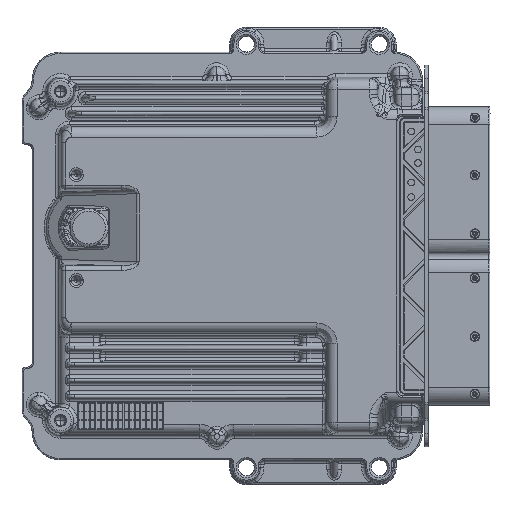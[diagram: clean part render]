
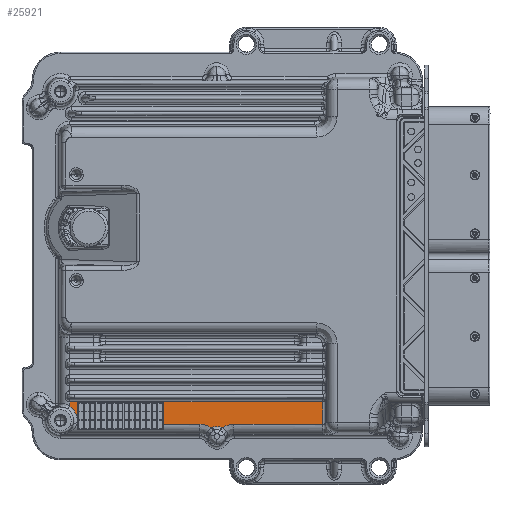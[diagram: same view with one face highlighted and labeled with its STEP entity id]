
A CAD part, top view. The second image highlights one B-rep face of the part: STEP entity #25921.
In plain terms, the highlighted planar face has unit normal (0, 0, 1).
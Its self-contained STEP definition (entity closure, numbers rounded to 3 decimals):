
#14408=CARTESIAN_POINT('Vertex',(-25.199,19.294,23.5)) ;
#14429=CARTESIAN_POINT('Line Origine',(-24.969,19.294,23.5)) ;
#14433=CARTESIAN_POINT('Vertex',(-64.555,19.294,23.5)) ;
#14527=CARTESIAN_POINT('Control Point',(-64.555,19.294,23.5)) ;
#14528=CARTESIAN_POINT('Control Point',(-64.85,19.294,23.5)) ;
#14529=CARTESIAN_POINT('Control Point',(-65.143,19.282,23.5)) ;
#14530=CARTESIAN_POINT('Control Point',(-65.435,19.259,23.5)) ;
#14531=CARTESIAN_POINT('Control Point',(-66.019,19.187,23.5)) ;
#14532=CARTESIAN_POINT('Control Point',(-66.596,19.067,23.5)) ;
#14533=CARTESIAN_POINT('Control Point',(-66.876,18.997,23.5)) ;
#14534=CARTESIAN_POINT('Control Point',(-67.423,18.837,23.5)) ;
#14535=CARTESIAN_POINT('Control Point',(-67.956,18.633,23.5)) ;
#14536=CARTESIAN_POINT('Control Point',(-68.187,18.534,23.5)) ;
#14537=CARTESIAN_POINT('Control Point',(-68.633,18.326,23.5)) ;
#14538=CARTESIAN_POINT('Control Point',(-69.082,18.078,23.5)) ;
#14539=CARTESIAN_POINT('Control Point',(-69.321,17.935,23.5)) ;
#14540=CARTESIAN_POINT('Control Point',(-69.551,17.784,23.5)) ;
#14541=CARTESIAN_POINT('Control Point',(-69.776,17.623,23.5)) ;
#14542=CARTESIAN_POINT('Vertex',(-69.776,17.623,23.5)) ;
#14889=CARTESIAN_POINT('Vertex',(-74.424,17.624,23.5)) ;
#14893=CARTESIAN_POINT('Control Point',(-74.424,17.624,23.5)) ;
#14894=CARTESIAN_POINT('Control Point',(-74.904,17.965,23.5)) ;
#14895=CARTESIAN_POINT('Control Point',(-75.407,18.266,23.5)) ;
#14896=CARTESIAN_POINT('Control Point',(-75.937,18.526,23.5)) ;
#14897=CARTESIAN_POINT('Control Point',(-76.741,18.842,23.5)) ;
#14898=CARTESIAN_POINT('Control Point',(-77.575,19.059,23.5)) ;
#14899=CARTESIAN_POINT('Control Point',(-77.821,19.113,23.5)) ;
#14900=CARTESIAN_POINT('Control Point',(-78.306,19.203,23.5)) ;
#14901=CARTESIAN_POINT('Control Point',(-78.817,19.262,23.5)) ;
#14902=CARTESIAN_POINT('Control Point',(-79.095,19.284,23.5)) ;
#14903=CARTESIAN_POINT('Control Point',(-79.369,19.294,23.5)) ;
#14904=CARTESIAN_POINT('Control Point',(-79.645,19.294,23.5)) ;
#14905=CARTESIAN_POINT('Vertex',(-79.645,19.294,23.5)) ;
#14928=CARTESIAN_POINT('Line Origine',(-24.969,19.294,23.5)) ;
#14932=CARTESIAN_POINT('Vertex',(-95.8,19.294,23.5)) ;
#14953=CARTESIAN_POINT('Vertex',(-133.8,19.294,23.5)) ;
#14957=CARTESIAN_POINT('Control Point',(-134.3,19.294,23.5)) ;
#14958=CARTESIAN_POINT('Control Point',(-134.133,19.294,23.5)) ;
#14959=CARTESIAN_POINT('Control Point',(-133.967,19.294,23.5)) ;
#14960=CARTESIAN_POINT('Control Point',(-133.8,19.294,23.5)) ;
#14961=CARTESIAN_POINT('Vertex',(-134.3,19.294,23.5)) ;
#15574=CARTESIAN_POINT('Vertex',(-137.506,27.229,23.5)) ;
#15839=CARTESIAN_POINT('Line Origine',(-137.506,57.898,23.5)) ;
#15843=CARTESIAN_POINT('Vertex',(-137.506,29.195,23.5)) ;
#25811=CARTESIAN_POINT('Line Origine',(-25.199,55.589,23.5)) ;
#25815=CARTESIAN_POINT('Vertex',(-25.199,29.195,23.5)) ;
#25830=CARTESIAN_POINT('Axis2P3D Location',(-66.1,94.,23.5)) ;
#25836=CARTESIAN_POINT('Control Point',(-134.3,19.294,23.5)) ;
#25837=CARTESIAN_POINT('Control Point',(-134.116,20.072,23.5)) ;
#25838=CARTESIAN_POINT('Control Point',(-134.036,20.875,23.5)) ;
#25839=CARTESIAN_POINT('Control Point',(-134.067,21.684,23.5)) ;
#25840=CARTESIAN_POINT('Control Point',(-134.345,23.274,23.5)) ;
#25841=CARTESIAN_POINT('Control Point',(-135.035,24.732,23.5)) ;
#25842=CARTESIAN_POINT('Control Point',(-135.478,25.41,23.5)) ;
#25843=CARTESIAN_POINT('Control Point',(-136.155,26.192,23.5)) ;
#25844=CARTESIAN_POINT('Control Point',(-136.95,26.841,23.5)) ;
#25845=CARTESIAN_POINT('Control Point',(-137.13,26.978,23.5)) ;
#25846=CARTESIAN_POINT('Control Point',(-137.316,27.107,23.5)) ;
#25847=CARTESIAN_POINT('Control Point',(-137.506,27.229,23.5)) ;
#25849=CARTESIAN_POINT('Line Origine',(-133.8,24.147,23.5)) ;
#25853=CARTESIAN_POINT('Vertex',(-133.8,29.,23.5)) ;
#25856=CARTESIAN_POINT('Line Origine',(-114.8,29.,23.5)) ;
#25860=CARTESIAN_POINT('Vertex',(-95.8,29.,23.5)) ;
#25863=CARTESIAN_POINT('Line Origine',(-95.8,24.147,23.5)) ;
#25869=CARTESIAN_POINT('Control Point',(-74.033,17.839,23.5)) ;
#25870=CARTESIAN_POINT('Control Point',(-74.114,17.801,23.5)) ;
#25871=CARTESIAN_POINT('Control Point',(-74.193,17.761,23.5)) ;
#25872=CARTESIAN_POINT('Control Point',(-74.272,17.717,23.5)) ;
#25873=CARTESIAN_POINT('Control Point',(-74.349,17.672,23.5)) ;
#25874=CARTESIAN_POINT('Control Point',(-74.424,17.624,23.5)) ;
#25875=CARTESIAN_POINT('Vertex',(-74.033,17.839,23.5)) ;
#25879=CARTESIAN_POINT('Control Point',(-70.167,17.84,23.5)) ;
#25880=CARTESIAN_POINT('Control Point',(-70.544,18.018,23.5)) ;
#25881=CARTESIAN_POINT('Control Point',(-70.942,18.152,23.5)) ;
#25882=CARTESIAN_POINT('Control Point',(-71.353,18.241,23.5)) ;
#25883=CARTESIAN_POINT('Control Point',(-72.153,18.317,23.5)) ;
#25884=CARTESIAN_POINT('Control Point',(-72.95,18.217,23.5)) ;
#25885=CARTESIAN_POINT('Control Point',(-73.325,18.13,23.5)) ;
#25886=CARTESIAN_POINT('Control Point',(-73.688,18.003,23.5)) ;
#25887=CARTESIAN_POINT('Control Point',(-74.033,17.84,23.5)) ;
#25888=CARTESIAN_POINT('Vertex',(-70.167,17.84,23.5)) ;
#25892=CARTESIAN_POINT('Control Point',(-69.776,17.623,23.5)) ;
#25893=CARTESIAN_POINT('Control Point',(-69.852,17.671,23.5)) ;
#25894=CARTESIAN_POINT('Control Point',(-69.929,17.717,23.5)) ;
#25895=CARTESIAN_POINT('Control Point',(-70.007,17.76,23.5)) ;
#25896=CARTESIAN_POINT('Control Point',(-70.087,17.801,23.5)) ;
#25897=CARTESIAN_POINT('Control Point',(-70.167,17.84,23.5)) ;
#25899=CARTESIAN_POINT('Line Origine',(-81.352,29.195,23.5)) ;
#14430=DIRECTION('Vector Direction',(-1.,0.,0.)) ;
#14929=DIRECTION('Vector Direction',(-1.,0.,0.)) ;
#15840=DIRECTION('Vector Direction',(0.,-1.,0.)) ;
#25812=DIRECTION('Vector Direction',(0.,-1.,0.)) ;
#25831=DIRECTION('Axis2P3D Direction',(0.,0.,-1.)) ;
#25832=DIRECTION('Axis2P3D XDirection',(0.,1.,0.)) ;
#25850=DIRECTION('Vector Direction',(0.,1.,0.)) ;
#25857=DIRECTION('Vector Direction',(1.,0.,0.)) ;
#25864=DIRECTION('Vector Direction',(0.,1.,0.)) ;
#25900=DIRECTION('Vector Direction',(-1.,0.,0.)) ;
#25833=AXIS2_PLACEMENT_3D('Plane Axis2P3D',#25830,#25831,#25832) ;
#25905=ORIENTED_EDGE('',*,*,#15845,.T.) ;
#25906=ORIENTED_EDGE('',*,*,#25848,.F.) ;
#25907=ORIENTED_EDGE('',*,*,#14963,.T.) ;
#25908=ORIENTED_EDGE('',*,*,#25855,.T.) ;
#25909=ORIENTED_EDGE('',*,*,#25862,.T.) ;
#25910=ORIENTED_EDGE('',*,*,#25867,.F.) ;
#25911=ORIENTED_EDGE('',*,*,#14934,.T.) ;
#25912=ORIENTED_EDGE('',*,*,#14907,.F.) ;
#25913=ORIENTED_EDGE('',*,*,#25877,.F.) ;
#25914=ORIENTED_EDGE('',*,*,#25890,.F.) ;
#25915=ORIENTED_EDGE('',*,*,#25898,.F.) ;
#25916=ORIENTED_EDGE('',*,*,#14544,.F.) ;
#25917=ORIENTED_EDGE('',*,*,#14435,.T.) ;
#25918=ORIENTED_EDGE('',*,*,#25817,.T.) ;
#25919=ORIENTED_EDGE('',*,*,#25903,.T.) ;
#14431=VECTOR('Line Direction',#14430,1.) ;
#14930=VECTOR('Line Direction',#14929,1.) ;
#15841=VECTOR('Line Direction',#15840,1.) ;
#25813=VECTOR('Line Direction',#25812,1.) ;
#25851=VECTOR('Line Direction',#25850,1.) ;
#25858=VECTOR('Line Direction',#25857,1.) ;
#25865=VECTOR('Line Direction',#25864,1.) ;
#25901=VECTOR('Line Direction',#25900,1.) ;
#25921=ADVANCED_FACE('#Final_Part',(#25920),#25834,.F.) ;
#14526=B_SPLINE_CURVE_WITH_KNOTS('',5,(#14527,#14528,#14529,#14530,#14531,#14532,#14533,#14534,#14535,#14536,#14537,#14538,#14539,#14540,#14541),.UNSPECIFIED.,.F.,.U.,(6,3,3,3,6),(0.,1.783,3.572,5.242,6.912),.UNSPECIFIED.) ;
#14892=B_SPLINE_CURVE_WITH_KNOTS('',5,(#14893,#14894,#14895,#14896,#14897,#14898,#14899,#14900,#14901,#14902,#14903,#14904),.UNSPECIFIED.,.F.,.U.,(6,3,3,6),(0.,3.562,5.23,6.897),.UNSPECIFIED.) ;
#14956=B_SPLINE_CURVE_WITH_KNOTS('',3,(#14957,#14958,#14959,#14960),.UNSPECIFIED.,.F.,.U.,(4,4),(0.,0.707),.UNSPECIFIED.) ;
#25835=B_SPLINE_CURVE_WITH_KNOTS('',5,(#25836,#25837,#25838,#25839,#25840,#25841,#25842,#25843,#25844,#25845,#25846,#25847),.UNSPECIFIED.,.F.,.U.,(6,3,3,6),(0.,5.654,11.307,12.903),.UNSPECIFIED.) ;
#25868=B_SPLINE_CURVE_WITH_KNOTS('',5,(#25869,#25870,#25871,#25872,#25873,#25874),.UNSPECIFIED.,.F.,.U.,(6,6),(0.,0.632),.UNSPECIFIED.) ;
#25878=B_SPLINE_CURVE_WITH_KNOTS('',5,(#25879,#25880,#25881,#25882,#25883,#25884,#25885,#25886,#25887),.UNSPECIFIED.,.F.,.U.,(6,3,6),(0.,2.947,5.648),.UNSPECIFIED.) ;
#25891=B_SPLINE_CURVE_WITH_KNOTS('',5,(#25892,#25893,#25894,#25895,#25896,#25897),.UNSPECIFIED.,.F.,.U.,(6,6),(0.,0.633),.UNSPECIFIED.) ;
#14435=EDGE_CURVE('',#14434,#14409,#14432,.F.) ;
#14544=EDGE_CURVE('',#14434,#14543,#14526,.T.) ;
#14907=EDGE_CURVE('',#14890,#14906,#14892,.T.) ;
#14934=EDGE_CURVE('',#14933,#14906,#14931,.F.) ;
#14963=EDGE_CURVE('',#14962,#14954,#14956,.T.) ;
#15845=EDGE_CURVE('',#15844,#15575,#15842,.T.) ;
#25817=EDGE_CURVE('',#14409,#25816,#25814,.F.) ;
#25848=EDGE_CURVE('',#14962,#15575,#25835,.T.) ;
#25855=EDGE_CURVE('',#14954,#25854,#25852,.T.) ;
#25862=EDGE_CURVE('',#25854,#25861,#25859,.T.) ;
#25867=EDGE_CURVE('',#14933,#25861,#25866,.T.) ;
#25877=EDGE_CURVE('',#25876,#14890,#25868,.T.) ;
#25890=EDGE_CURVE('',#25889,#25876,#25878,.T.) ;
#25898=EDGE_CURVE('',#14543,#25889,#25891,.T.) ;
#25903=EDGE_CURVE('',#25816,#15844,#25902,.T.) ;
#25904=EDGE_LOOP('',(#25905,#25906,#25907,#25908,#25909,#25910,#25911,#25912,#25913,#25914,#25915,#25916,#25917,#25918,#25919)) ;
#25920=FACE_OUTER_BOUND('',#25904,.T.) ;
#14432=LINE('Line',#14429,#14431) ;
#14931=LINE('Line',#14928,#14930) ;
#15842=LINE('Line',#15839,#15841) ;
#25814=LINE('Line',#25811,#25813) ;
#25852=LINE('Line',#25849,#25851) ;
#25859=LINE('Line',#25856,#25858) ;
#25866=LINE('Line',#25863,#25865) ;
#25902=LINE('Line',#25899,#25901) ;
#25834=PLANE('',#25833) ;
#14409=VERTEX_POINT('',#14408) ;
#14434=VERTEX_POINT('',#14433) ;
#14543=VERTEX_POINT('',#14542) ;
#14890=VERTEX_POINT('',#14889) ;
#14906=VERTEX_POINT('',#14905) ;
#14933=VERTEX_POINT('',#14932) ;
#14954=VERTEX_POINT('',#14953) ;
#14962=VERTEX_POINT('',#14961) ;
#15575=VERTEX_POINT('',#15574) ;
#15844=VERTEX_POINT('',#15843) ;
#25816=VERTEX_POINT('',#25815) ;
#25854=VERTEX_POINT('',#25853) ;
#25861=VERTEX_POINT('',#25860) ;
#25876=VERTEX_POINT('',#25875) ;
#25889=VERTEX_POINT('',#25888) ;
